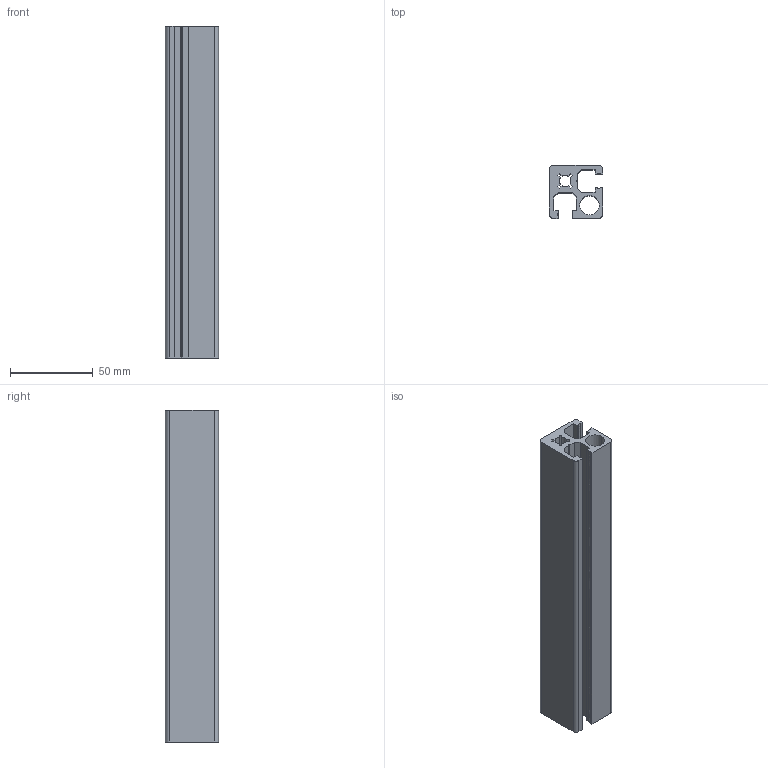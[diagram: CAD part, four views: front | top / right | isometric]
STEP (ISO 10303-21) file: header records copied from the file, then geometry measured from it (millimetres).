
FILE_DESCRIPTION (( 'STEP AP203' ), '1' );
FILE_NAME ('009226 REF 3232.STEP', '2015-12-01T11:52:43', ( '' ), ( '' ), 'SwSTEP 2.0', 'SolidWorks 2015', '' );
FILE_SCHEMA (( 'CONFIG_CONTROL_DESIGN' ));
Length unit declared in the file: millimetre
Products named in the file (1): 009226 REF 3232
Bounding box: 32 x 32 x 200 mm (x, y, z)
Volume: 100758.2 mm3; surface area: 56546.2 mm2
Topology: 1 solids, 1 shells, 66 faces, 192 edges, 128 vertices
Faces by surface type: plane 44, cylinder 18, bspline 4
Entity records: 2285 total; most frequent: CARTESIAN_POINT 455, ORIENTED_EDGE 384, DIRECTION 346, EDGE_CURVE 192, VECTOR 148, LINE 148, VERTEX_POINT 128, AXIS2_PLACEMENT_3D 99
